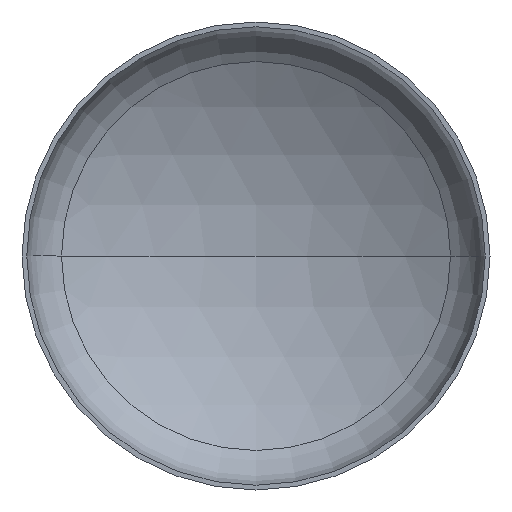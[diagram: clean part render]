
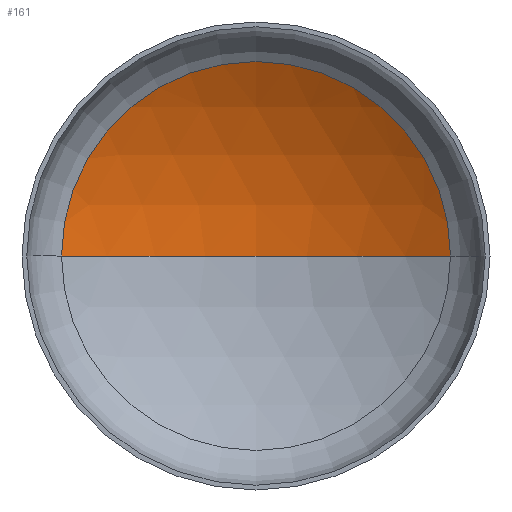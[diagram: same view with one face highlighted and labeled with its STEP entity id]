
A CAD part, front view. The second image highlights one B-rep face of the part: STEP entity #161.
In plain terms, the highlighted spherical face has radius 3600 mm.
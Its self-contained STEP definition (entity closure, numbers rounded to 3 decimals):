
#7 = DIRECTION ( 'NONE',  ( 1., 0., 0. ) ) ;
#10 = DIRECTION ( 'NONE',  ( 0., 0., -1. ) ) ;
#16 = CARTESIAN_POINT ( 'NONE',  ( 0., -2342.326, 0. ) ) ;
#19 = AXIS2_PLACEMENT_3D ( 'NONE', #217, #296, #294 ) ;
#23 = AXIS2_PLACEMENT_3D ( 'NONE', #225, #280, #278 ) ;
#28 = AXIS2_PLACEMENT_3D ( 'NONE', #16, #10, #258 ) ;
#29 = AXIS2_PLACEMENT_3D ( 'NONE', #392, #262, #7 ) ;
#34 = VERTEX_POINT ( 'NONE', #273 ) ;
#52 = VERTEX_POINT ( 'NONE', #302 ) ;
#73 = EDGE_CURVE ( 'NONE', #34, #52, #332, .T. ) ;
#84 = VERTEX_POINT ( 'NONE', #198 ) ;
#90 = CIRCLE ( 'NONE', #28, 3600. ) ;
#95 = EDGE_CURVE ( 'NONE', #84, #34, #90, .T. ) ;
#138 = ORIENTED_EDGE ( 'NONE', *, *, #73, .T. ) ;
#140 = ORIENTED_EDGE ( 'NONE', *, *, #95, .T. ) ;
#141 = EDGE_CURVE ( 'NONE', #84, #52, #267, .T. ) ;
#161 = ADVANCED_FACE ( 'NONE', ( #194 ), #276, .F. ) ;
#194 = FACE_OUTER_BOUND ( 'NONE', #407, .T. ) ;
#198 = CARTESIAN_POINT ( 'NONE',  ( 0., 1257.674, 0. ) ) ;
#217 = CARTESIAN_POINT ( 'NONE',  ( 0., -2342.326, 0. ) ) ;
#225 = CARTESIAN_POINT ( 'NONE',  ( 0., -2342.326, 0. ) ) ;
#258 = DIRECTION ( 'NONE',  ( -1., 0., 0. ) ) ;
#262 = DIRECTION ( 'NONE',  ( 0., -1., 0. ) ) ;
#267 = CIRCLE ( 'NONE', #23, 3600. ) ;
#273 = CARTESIAN_POINT ( 'NONE',  ( 1870.017, 733.878, 0. ) ) ;
#276 = SPHERICAL_SURFACE ( 'NONE', #19, 3600. ) ;
#278 = DIRECTION ( 'NONE',  ( 1., 0., 0. ) ) ;
#280 = DIRECTION ( 'NONE',  ( 0., 0., 1. ) ) ;
#294 = DIRECTION ( 'NONE',  ( -1., 0., 0. ) ) ;
#296 = DIRECTION ( 'NONE',  ( 0., 0., -1. ) ) ;
#302 = CARTESIAN_POINT ( 'NONE',  ( -1870.017, 733.878, 0. ) ) ;
#332 = CIRCLE ( 'NONE', #29, 1870.017 ) ;
#392 = CARTESIAN_POINT ( 'NONE',  ( 0., 733.878, 0. ) ) ;
#407 = EDGE_LOOP ( 'NONE', ( #410, #140, #138 ) ) ;
#410 = ORIENTED_EDGE ( 'NONE', *, *, #141, .F. ) ;
